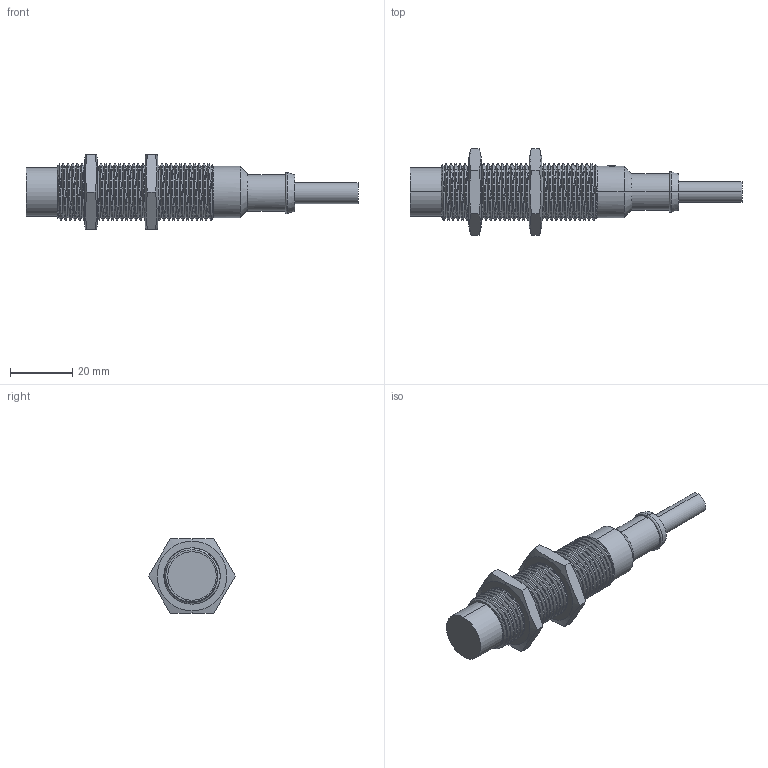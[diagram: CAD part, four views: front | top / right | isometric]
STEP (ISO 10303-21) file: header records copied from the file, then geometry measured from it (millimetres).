
FILE_DESCRIPTION (( 'STEP AP203' ), '1' );
FILE_NAME ('Ni-M18T-AZX-86.step', '2021-01-11T18:59:16', ( '' ), ( '' ), 'SwSTEP 2.0', 'SolidWorks 2019', '' );
FILE_SCHEMA (( 'CONFIG_CONTROL_DESIGN' ));
Length unit declared in the file: millimetre
Products named in the file (1): Ni-M18T-AZX-86
Bounding box: 106.27 x 27.71 x 24 mm (x, y, z)
Volume: 20166.6 mm3; surface area: 8144.8 mm2
Topology: 1 solids, 1 shells, 142 faces, 385 edges, 249 vertices
Faces by surface type: cylinder 78, cone 32, plane 24, bspline 6, torus 2
Entity records: 10556 total; most frequent: CARTESIAN_POINT 7420, ORIENTED_EDGE 770, DIRECTION 511, EDGE_CURVE 385, VERTEX_POINT 249, AXIS2_PLACEMENT_3D 200, EDGE_LOOP 150, FACE_OUTER_BOUND 142
